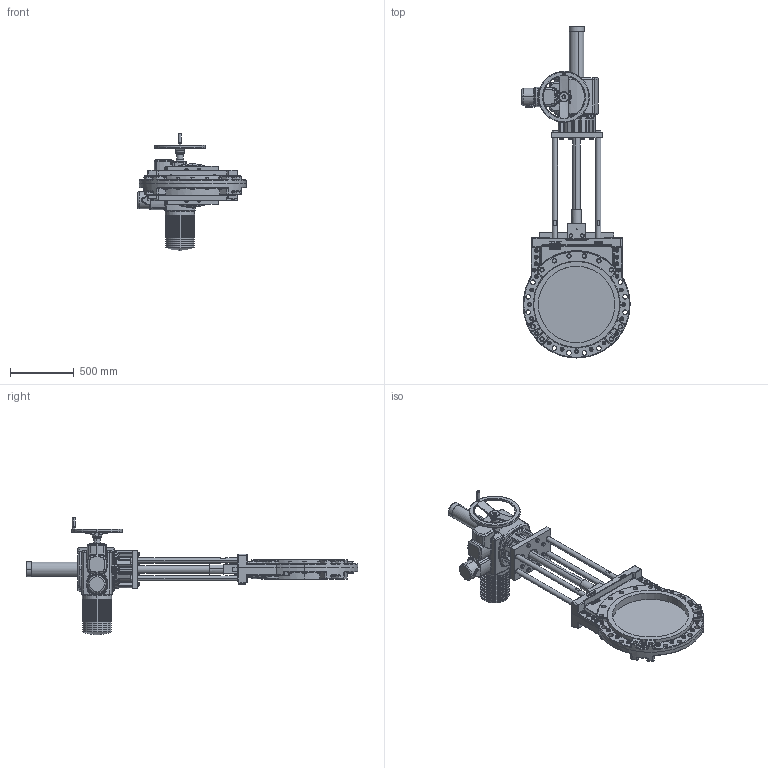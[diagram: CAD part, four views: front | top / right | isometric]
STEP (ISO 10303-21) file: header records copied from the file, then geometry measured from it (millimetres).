
FILE_DESCRIPTION (( 'STEP AP214' ), '1' );
FILE_NAME ('MGE DN 0600 PN16 (SA 25.1).STEP', '2015-09-23T08:50:36', ( 'admin' ), ( 'Hewlett-Packard Company' ), 'SwSTEP 2.0', 'SolidWorks 2013', '' );
FILE_SCHEMA (( 'AUTOMOTIVE_DESIGN' ));
Length unit declared in the file: millimetre
Products named in the file (1): MGE DN 0600 PN16 (SA 25.1)
Bounding box: 850 x 2606 x 922 mm (x, y, z)
Volume: 134157140.7 mm3; surface area: 5604244.8 mm2
Topology: 128 solids, 141 shells, 4268 faces, 9694 edges, 5812 vertices
Faces by surface type: plane 1488, cylinder 1183, cone 797, bspline 414, torus 350, sphere 36
Entity records: 194788 total; most frequent: CARTESIAN_POINT 53247, DIRECTION 19567, ORIENTED_EDGE 19208, EDGE_CURVE 9604, AXIS2_PLACEMENT_3D 8040, VERTEX_POINT 5806, EDGE_LOOP 4740, UNCERTAINTY_MEASURE_WITH_UNIT 4391
